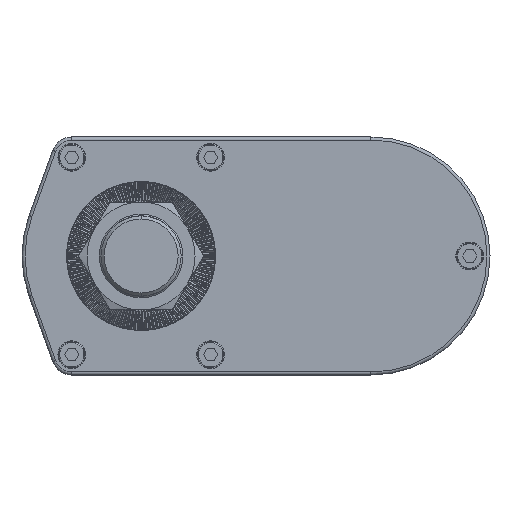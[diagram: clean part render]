
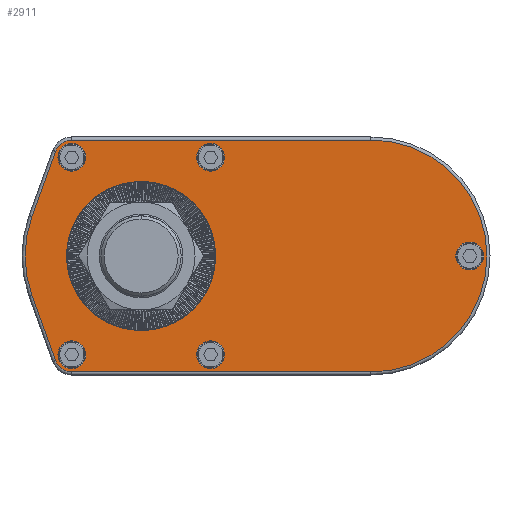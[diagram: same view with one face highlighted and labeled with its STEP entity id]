
A CAD part, left-side view. The second image highlights one B-rep face of the part: STEP entity #2911.
In plain terms, the highlighted planar face has unit normal (-1, 0, 0).
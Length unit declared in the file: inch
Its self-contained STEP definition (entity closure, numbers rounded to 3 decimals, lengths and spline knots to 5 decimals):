
#2911=ADVANCED_FACE('',(#6858,#6859,#6860,#6861,#6862,#6863,#6864),#6865,.F.);
#6858=FACE_BOUND('',#12051,.T.);
#6859=FACE_BOUND('',#12052,.T.);
#6860=FACE_BOUND('',#12053,.T.);
#6861=FACE_BOUND('',#12054,.T.);
#6862=FACE_BOUND('',#12055,.T.);
#6863=FACE_BOUND('',#12056,.T.);
#6864=FACE_OUTER_BOUND('',#12057,.T.);
#6865=PLANE('',#12058);
#12051=EDGE_LOOP('',(#20790,#20791));
#12052=EDGE_LOOP('',(#20792,#20793));
#12053=EDGE_LOOP('',(#20794,#20795));
#12054=EDGE_LOOP('',(#20796,#20797));
#12055=EDGE_LOOP('',(#20798,#20799));
#12056=EDGE_LOOP('',(#20800,#20801));
#12057=EDGE_LOOP('',(#20802,#20803,#20804,#20805,#20806,#20807,#20808,#20809));
#12058=AXIS2_PLACEMENT_3D('',#20810,#20811,#20812);
#20790=ORIENTED_EDGE('',*,*,#32954,.F.);
#20791=ORIENTED_EDGE('',*,*,#32955,.F.);
#20792=ORIENTED_EDGE('',*,*,#32956,.T.);
#20793=ORIENTED_EDGE('',*,*,#32957,.T.);
#20794=ORIENTED_EDGE('',*,*,#32783,.T.);
#20795=ORIENTED_EDGE('',*,*,#30404,.T.);
#20796=ORIENTED_EDGE('',*,*,#32958,.T.);
#20797=ORIENTED_EDGE('',*,*,#30108,.T.);
#20798=ORIENTED_EDGE('',*,*,#31474,.T.);
#20799=ORIENTED_EDGE('',*,*,#32959,.T.);
#20800=ORIENTED_EDGE('',*,*,#30921,.T.);
#20801=ORIENTED_EDGE('',*,*,#31435,.T.);
#20802=ORIENTED_EDGE('',*,*,#32960,.T.);
#20803=ORIENTED_EDGE('',*,*,#32662,.T.);
#20804=ORIENTED_EDGE('',*,*,#32961,.T.);
#20805=ORIENTED_EDGE('',*,*,#32962,.T.);
#20806=ORIENTED_EDGE('',*,*,#31822,.T.);
#20807=ORIENTED_EDGE('',*,*,#32963,.T.);
#20808=ORIENTED_EDGE('',*,*,#32964,.T.);
#20809=ORIENTED_EDGE('',*,*,#32332,.T.);
#20810=CARTESIAN_POINT('',(0.0,-2.93307,0.0));
#20811=DIRECTION('',(1.0,0.0,0.0));
#20812=DIRECTION('',(0.0,1.0,-0.0));
#30108=EDGE_CURVE('',#35831,#35829,#35832,.T.);
#30404=EDGE_CURVE('',#36354,#36352,#36355,.T.);
#30921=EDGE_CURVE('',#37261,#37265,#37267,.T.);
#31435=EDGE_CURVE('',#37265,#37261,#38122,.T.);
#31474=EDGE_CURVE('',#38178,#38182,#38184,.T.);
#31822=EDGE_CURVE('',#38728,#38726,#38729,.F.);
#32332=EDGE_CURVE('',#39490,#39495,#39497,.F.);
#32662=EDGE_CURVE('',#39990,#39988,#39991,.F.);
#32783=EDGE_CURVE('',#36352,#36354,#40157,.T.);
#32954=EDGE_CURVE('',#40397,#40398,#40399,.F.);
#32955=EDGE_CURVE('',#40398,#40397,#40400,.F.);
#32956=EDGE_CURVE('',#40401,#40402,#40403,.T.);
#32957=EDGE_CURVE('',#40402,#40401,#40404,.T.);
#32958=EDGE_CURVE('',#35829,#35831,#40405,.T.);
#32959=EDGE_CURVE('',#38182,#38178,#40406,.T.);
#32960=EDGE_CURVE('',#39495,#39990,#40407,.F.);
#32961=EDGE_CURVE('',#39988,#40408,#40409,.F.);
#32962=EDGE_CURVE('',#40408,#38728,#40410,.F.);
#32963=EDGE_CURVE('',#38726,#40411,#40412,.F.);
#32964=EDGE_CURVE('',#40411,#39490,#40413,.F.);
#35829=VERTEX_POINT('',#43922);
#35831=VERTEX_POINT('',#43925);
#35832=CIRCLE('',#43926,0.17717);
#36352=VERTEX_POINT('',#44636);
#36354=VERTEX_POINT('',#44639);
#36355=CIRCLE('',#44640,0.17717);
#37261=VERTEX_POINT('',#45821);
#37265=VERTEX_POINT('',#45826);
#37267=CIRCLE('',#45829,0.17717);
#38122=CIRCLE('',#46994,0.17717);
#38178=VERTEX_POINT('',#47066);
#38182=VERTEX_POINT('',#47071);
#38184=CIRCLE('',#47074,0.17717);
#38726=VERTEX_POINT('',#47813);
#38728=VERTEX_POINT('',#47815);
#38729=CIRCLE('',#47816,1.48031);
#39490=VERTEX_POINT('',#48875);
#39495=VERTEX_POINT('',#48881);
#39497=LINE('',#48883,#48884);
#39988=VERTEX_POINT('',#49551);
#39990=VERTEX_POINT('',#49553);
#39991=LINE('',#49554,#49555);
#40157=CIRCLE('',#49785,0.17717);
#40397=VERTEX_POINT('',#50102);
#40398=VERTEX_POINT('',#50103);
#40399=CIRCLE('',#50104,0.94882);
#40400=CIRCLE('',#50105,0.94882);
#40401=VERTEX_POINT('',#50106);
#40402=VERTEX_POINT('',#50107);
#40403=CIRCLE('',#50108,0.17717);
#40404=CIRCLE('',#50109,0.17717);
#40405=CIRCLE('',#50110,0.17717);
#40406=CIRCLE('',#50111,0.17717);
#40407=CIRCLE('',#50112,1.48031);
#40408=VERTEX_POINT('',#50113);
#40409=CIRCLE('',#50114,0.22047);
#40410=LINE('',#50115,#50116);
#40411=VERTEX_POINT('',#50117);
#40412=LINE('',#50118,#50119);
#40413=CIRCLE('',#50120,0.22047);
#43922=CARTESIAN_POINT('',(0.0,-0.8874,-1.43701));
#43925=CARTESIAN_POINT('',(0.0,-0.8874,-1.08268));
#43926=AXIS2_PLACEMENT_3D('',#54637,#54638,#54639);
#44636=CARTESIAN_POINT('',(0.0,0.88425,1.08268));
#44639=CARTESIAN_POINT('',(0.0,0.88425,1.43701));
#44640=AXIS2_PLACEMENT_3D('',#54992,#54993,#54994);
#45821=CARTESIAN_POINT('',(0.0,0.88425,-1.43701));
#45826=CARTESIAN_POINT('',(0.0,0.88425,-1.08268));
#45829=AXIS2_PLACEMENT_3D('',#55755,#55756,#55757);
#46994=AXIS2_PLACEMENT_3D('',#56407,#56408,#56409);
#47066=CARTESIAN_POINT('',(0.0,-0.8874,1.08268));
#47071=CARTESIAN_POINT('',(0.0,-0.8874,1.43701));
#47074=AXIS2_PLACEMENT_3D('',#56461,#56462,#56463);
#47813=CARTESIAN_POINT('',(0.0,-2.93307,1.48031));
#47815=CARTESIAN_POINT('',(0.0,-2.93307,-1.48031));
#47816=AXIS2_PLACEMENT_3D('',#56880,#56881,#56882);
#48875=CARTESIAN_POINT('',(0.0,1.0916,1.33479));
#48881=CARTESIAN_POINT('',(0.0,1.39217,0.50319));
#48883=CARTESIAN_POINT('',(0.0,1.39217,0.50319));
#48884=VECTOR('',#57523,39.37008);
#49551=CARTESIAN_POINT('',(0.0,1.0916,-1.33479));
#49553=CARTESIAN_POINT('',(0.0,1.39217,-0.50319));
#49554=CARTESIAN_POINT('',(0.0,1.0916,-1.33479));
#49555=VECTOR('',#57923,39.37008);
#49785=AXIS2_PLACEMENT_3D('',#58063,#58064,#58065);
#50102=CARTESIAN_POINT('',(0.0,0.0,-0.94882));
#50103=CARTESIAN_POINT('',(0.0,0.,0.94882));
#50104=AXIS2_PLACEMENT_3D('',#58305,#58306,#58307);
#50105=AXIS2_PLACEMENT_3D('',#58308,#58309,#58310);
#50106=CARTESIAN_POINT('',(0.0,-4.19449,-0.17717));
#50107=CARTESIAN_POINT('',(0.0,-4.19449,0.17717));
#50108=AXIS2_PLACEMENT_3D('',#58311,#58312,#58313);
#50109=AXIS2_PLACEMENT_3D('',#58314,#58315,#58316);
#50110=AXIS2_PLACEMENT_3D('',#58317,#58318,#58319);
#50111=AXIS2_PLACEMENT_3D('',#58320,#58321,#58322);
#50112=AXIS2_PLACEMENT_3D('',#58323,#58324,#58325);
#50113=CARTESIAN_POINT('',(0.0,0.88425,-1.48031));
#50114=AXIS2_PLACEMENT_3D('',#58326,#58327,#58328);
#50115=CARTESIAN_POINT('',(0.0,-2.93307,-1.48031));
#50116=VECTOR('',#58329,39.37008);
#50117=CARTESIAN_POINT('',(0.0,0.88425,1.48031));
#50118=CARTESIAN_POINT('',(0.0,0.88425,1.48031));
#50119=VECTOR('',#58330,39.37008);
#50120=AXIS2_PLACEMENT_3D('',#58331,#58332,#58333);
#54637=CARTESIAN_POINT('',(0.0,-0.8874,-1.25984));
#54638=DIRECTION('',(1.0,0.0,0.0));
#54639=DIRECTION('',(0.0,0.0,-1.0));
#54992=CARTESIAN_POINT('',(0.0,0.88425,1.25984));
#54993=DIRECTION('',(1.0,0.0,0.0));
#54994=DIRECTION('',(0.0,0.0,-1.0));
#55755=CARTESIAN_POINT('',(0.0,0.88425,-1.25984));
#55756=DIRECTION('',(1.0,0.0,0.0));
#55757=DIRECTION('',(0.0,0.0,-1.0));
#56407=CARTESIAN_POINT('',(0.0,0.88425,-1.25984));
#56408=DIRECTION('',(1.0,0.0,0.0));
#56409=DIRECTION('',(0.0,0.0,-1.0));
#56461=CARTESIAN_POINT('',(0.0,-0.8874,1.25984));
#56462=DIRECTION('',(1.0,0.0,0.0));
#56463=DIRECTION('',(0.0,0.0,-1.0));
#56880=CARTESIAN_POINT('',(0.0,-2.93307,0.0));
#56881=DIRECTION('',(1.0,0.0,0.0));
#56882=DIRECTION('',(0.0,0.0,-1.0));
#57523=DIRECTION('',(0.0,-0.34,0.94));
#57923=DIRECTION('',(0.0,0.34,0.94));
#58063=CARTESIAN_POINT('',(0.0,0.88425,1.25984));
#58064=DIRECTION('',(1.0,0.0,0.0));
#58065=DIRECTION('',(0.0,0.0,-1.0));
#58305=CARTESIAN_POINT('',(0.0,0.0,0.0));
#58306=DIRECTION('',(1.0,0.0,0.0));
#58307=DIRECTION('',(0.0,0.0,-1.0));
#58308=CARTESIAN_POINT('',(0.0,0.0,0.0));
#58309=DIRECTION('',(1.0,0.0,0.0));
#58310=DIRECTION('',(0.0,0.0,-1.0));
#58311=CARTESIAN_POINT('',(0.0,-4.19449,0.0));
#58312=DIRECTION('',(1.0,0.0,0.0));
#58313=DIRECTION('',(0.0,0.0,-1.0));
#58314=CARTESIAN_POINT('',(0.0,-4.19449,0.0));
#58315=DIRECTION('',(1.0,0.0,0.0));
#58316=DIRECTION('',(0.0,0.0,-1.0));
#58317=CARTESIAN_POINT('',(0.0,-0.8874,-1.25984));
#58318=DIRECTION('',(1.0,0.0,0.0));
#58319=DIRECTION('',(0.0,0.0,-1.0));
#58320=CARTESIAN_POINT('',(0.0,-0.8874,1.25984));
#58321=DIRECTION('',(1.0,0.0,0.0));
#58322=DIRECTION('',(0.0,0.0,-1.0));
#58323=CARTESIAN_POINT('',(0.0,0.,0.0));
#58324=DIRECTION('',(1.0,0.0,0.0));
#58325=DIRECTION('',(0.0,0.0,-1.0));
#58326=CARTESIAN_POINT('',(0.0,0.88425,-1.25984));
#58327=DIRECTION('',(1.0,0.0,0.0));
#58328=DIRECTION('',(0.0,0.0,-1.0));
#58329=DIRECTION('',(0.0,1.0,0.0));
#58330=DIRECTION('',(0.0,-1.0,0.0));
#58331=CARTESIAN_POINT('',(0.0,0.88425,1.25984));
#58332=DIRECTION('',(1.0,0.0,0.0));
#58333=DIRECTION('',(0.0,0.0,-1.0));
